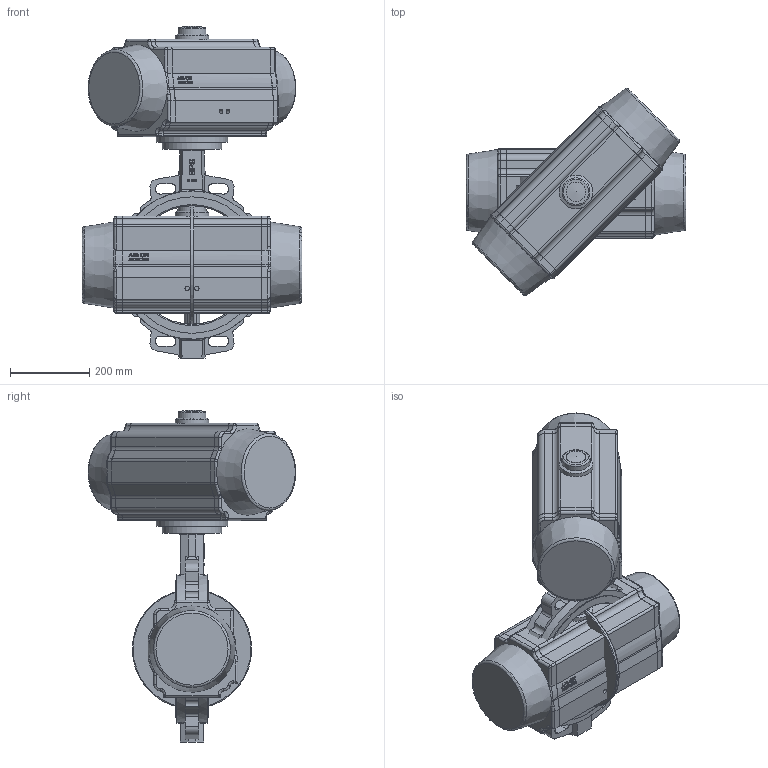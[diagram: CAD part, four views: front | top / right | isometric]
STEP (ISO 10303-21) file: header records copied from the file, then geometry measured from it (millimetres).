
FILE_DESCRIPTION( ( 'Unknown' ), '1' );
FILE_NAME( 'R:/ECCUA/ROOTSI BPS 3D vidinad/Poordklapid Wafer type/Butterfly valve(wafer) with pneumatic actuator BPS/STEP formaat/BPS 2303300PE butterfly valve DN300.stp', 'Unknown', ( 'Unknown' ), ( 'Unknown' ), 'PSStep 10.1', 'Unknown', ' ' );
FILE_SCHEMA( ( 'AUTOMOTIVE_DESIGN { 1 0 10303 214 1 1 1 1 }' ) );
Length unit declared in the file: millimetre
Products named in the file (6): Assem1; Butterfly valve wafer type DN300 BPS; BPS 8300200DA-SR pneumatic actuator; BPS adaptor flange F12-F14
Bounding box: 556 x 525.5 x 839.5 mm (x, y, z)
Volume: 60627422.7 mm3; surface area: 2640669.6 mm2
Topology: 10 solids, 10 shells, 1186 faces, 3042 edges, 1948 vertices
Faces by surface type: plane 426, cylinder 400, bspline 182, extrusion 84, torus 66, cone 18, sphere 10
Full cylindrical faces by diameter (mm): 10.106 x8, 11.445 x4, 13 x8, 13.835 x8, 18 x8, 26 x8, 50 x2, 60 x2, 71 x2, 85 x2, 150 x2, 180 x2, 300 x2, 345 x4, 375 x4
Entity records: 32060 total; most frequent: CARTESIAN_POINT 14033, ORIENTED_EDGE 2858, DIRECTION 2392, EDGE_CURVE 1429, VERTEX_POINT 951, AXIS2_PLACEMENT_3D 922, EDGE_LOOP 732, FACE_OUTER_BOUND 637
